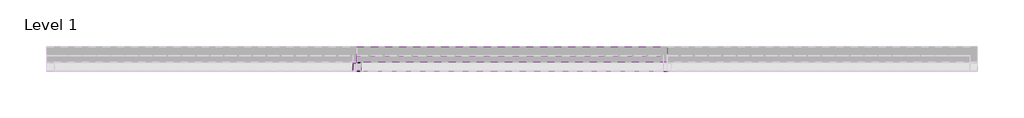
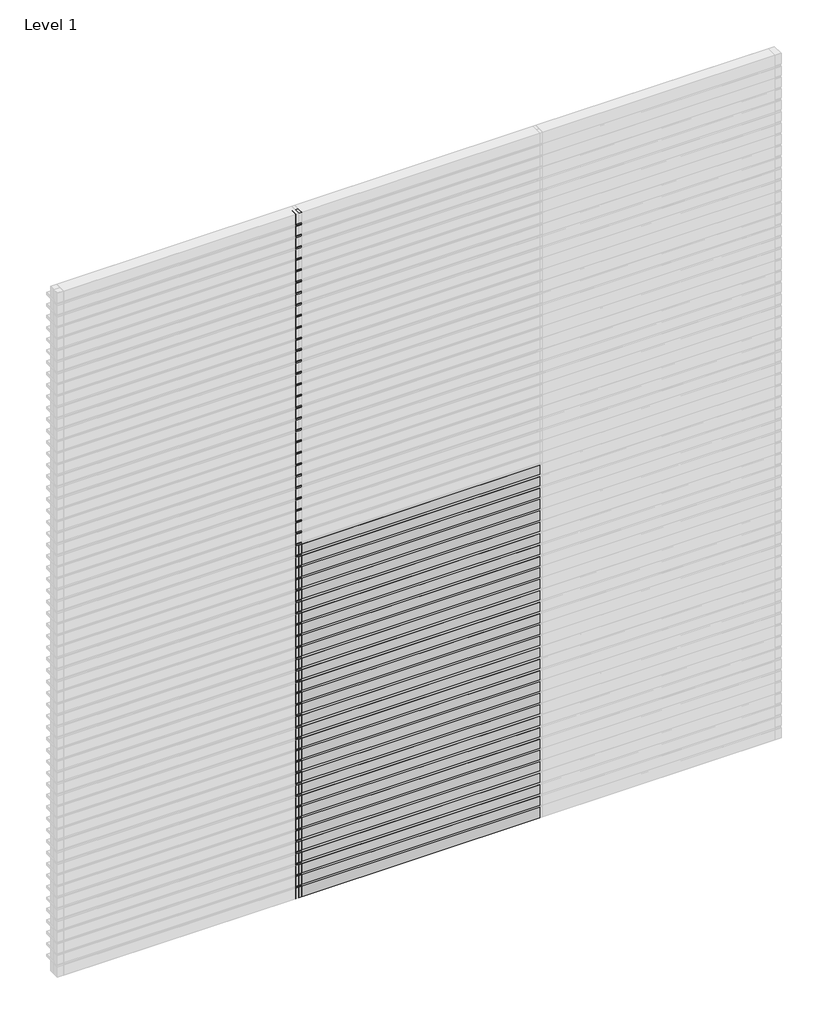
# One storey, part 3 of 6: 99 members, 31 plates.
"""IFC4 building model written with IfcOpenShell, lengths in millimetres."""

from ifc_helpers import new_model, si_unit, origin, place, context, project, spatial, transform, mapped, element, save
from components import rectangular_mullion_30cdfca6, rectangular_mullion_ae434dd9, empty_system_panel_empty_51cbbd14, empty_system_panel_empty_86242385

model = new_model("IFC4")

# Units and contexts
model_context = context("Model", 3, world=origin())
ifc_project = project(units=[si_unit("LENGTHUNIT", "METRE", prefix="MILLI")], contexts=[model_context])

# Site, building, storey
site = spatial("IfcSite", under=ifc_project)
building = spatial("IfcBuilding", under=site)
storey = spatial("IfcBuildingStorey", under=building, Name="Level 1", Elevation=0.0)

# Members
placement = place(None, origin())
rectangular_mullion_shape = rectangular_mullion_30cdfca6(model_context)
element("IfcMember", 1, ObjectType="Rectangular Mullion : RSen_21_CWM_blade - cubic 100 - 0°_gen_duco projects", at=placement, inside=storey, context=model_context, shape_type="MappedRepresentation", body=[
    mapped(rectangular_mullion_shape, transform((2000.0, 3000.0, 2100.0), x_axis=(0.0, 0.0, 1.0), y_axis=(0.0, 1.0, 0.0), z_axis=(-1.0, 0.0, 0.0))),
])
element("IfcMember", 2, ObjectType="Rectangular Mullion : RSen_21_CWM_blade - cubic 100 - 0°_gen_duco projects", at=placement, inside=storey, context=model_context, shape_type="MappedRepresentation", body=[
    mapped(rectangular_mullion_shape, transform((2000.0, 3000.0, 2200.0), x_axis=(0.0, 0.0, 1.0), y_axis=(0.0, 1.0, 0.0), z_axis=(-1.0, 0.0, 0.0))),
])
element("IfcMember", 3, ObjectType="Rectangular Mullion : RSen_21_CWM_blade - cubic 100 - 0°_gen_duco projects", at=placement, inside=storey, context=model_context, shape_type="MappedRepresentation", body=[
    mapped(rectangular_mullion_shape, transform((2000.0, 3000.0, 2300.0), x_axis=(0.0, 0.0, 1.0), y_axis=(0.0, 1.0, 0.0), z_axis=(-1.0, 0.0, 0.0))),
])
element("IfcMember", 4, ObjectType="Rectangular Mullion : RSen_21_CWM_blade - cubic 100 - 0°_gen_duco projects", at=placement, inside=storey, context=model_context, shape_type="MappedRepresentation", body=[
    mapped(rectangular_mullion_shape, transform((2000.0, 3000.0, 2400.0), x_axis=(0.0, 0.0, 1.0), y_axis=(0.0, 1.0, 0.0), z_axis=(-1.0, 0.0, 0.0))),
])
element("IfcMember", 5, ObjectType="Rectangular Mullion : RSen_21_CWM_blade - cubic 100 - 0°_gen_duco projects", at=placement, inside=storey, context=model_context, shape_type="MappedRepresentation", body=[
    mapped(rectangular_mullion_shape, transform((2000.0, 3000.0, 2500.0), x_axis=(0.0, 0.0, 1.0), y_axis=(0.0, 1.0, 0.0), z_axis=(-1.0, 0.0, 0.0))),
])
element("IfcMember", 6, ObjectType="Rectangular Mullion : RSen_21_CWM_blade - cubic 100 - 0°_gen_duco projects", at=placement, inside=storey, context=model_context, shape_type="MappedRepresentation", body=[
    mapped(rectangular_mullion_shape, transform((2000.0, 3000.0, 2600.0), x_axis=(0.0, 0.0, 1.0), y_axis=(0.0, 1.0, 0.0), z_axis=(-1.0, 0.0, 0.0))),
])
element("IfcMember", 7, ObjectType="Rectangular Mullion : RSen_21_CWM_blade - cubic 100 - 0°_gen_duco projects", at=placement, inside=storey, context=model_context, shape_type="MappedRepresentation", body=[
    mapped(rectangular_mullion_shape, transform((2000.0, 3000.0, 2700.0), x_axis=(0.0, 0.0, 1.0), y_axis=(0.0, 1.0, 0.0), z_axis=(-1.0, 0.0, 0.0))),
])
element("IfcMember", 8, ObjectType="Rectangular Mullion : RSen_21_CWM_blade - cubic 100 - 0°_gen_duco projects", at=placement, inside=storey, context=model_context, shape_type="MappedRepresentation", body=[
    mapped(rectangular_mullion_shape, transform((2000.0, 3000.0, 2800.0), x_axis=(0.0, 0.0, 1.0), y_axis=(0.0, 1.0, 0.0), z_axis=(-1.0, 0.0, 0.0))),
])
element("IfcMember", 9, ObjectType="Rectangular Mullion : RSen_21_CWM_blade - cubic 100 - 0°_gen_duco projects", at=placement, inside=storey, context=model_context, shape_type="MappedRepresentation", body=[
    mapped(rectangular_mullion_shape, transform((2000.0, 3000.0, 2900.0), x_axis=(0.0, 0.0, 1.0), y_axis=(0.0, 1.0, 0.0), z_axis=(-1.0, 0.0, 0.0))),
])
element("IfcMember", 10, ObjectType="Rectangular Mullion : RSen_21_CWM_blade - cubic 100 - 0°_gen_duco projects", at=placement, inside=storey, context=model_context, shape_type="MappedRepresentation", body=[
    mapped(rectangular_mullion_shape, transform((2000.0, 3000.0, 3000.0), x_axis=(0.0, 0.0, 1.0), y_axis=(0.0, 1.0, 0.0), z_axis=(-1.0, 0.0, 0.0))),
])
element("IfcMember", 11, ObjectType="Rectangular Mullion : RSen_21_CWM_blade - cubic 100 - 0°_gen_duco projects", at=placement, inside=storey, context=model_context, shape_type="MappedRepresentation", body=[
    mapped(rectangular_mullion_shape, transform((2000.0, 3000.0, 3100.0), x_axis=(0.0, 0.0, 1.0), y_axis=(0.0, 1.0, 0.0), z_axis=(-1.0, 0.0, 0.0))),
])
element("IfcMember", 12, ObjectType="Rectangular Mullion : RSen_21_CWM_blade - cubic 100 - 0°_gen_duco projects", at=placement, inside=storey, context=model_context, shape_type="MappedRepresentation", body=[
    mapped(rectangular_mullion_shape, transform((2000.0, 3000.0, 3200.0), x_axis=(0.0, 0.0, 1.0), y_axis=(0.0, 1.0, 0.0), z_axis=(-1.0, 0.0, 0.0))),
])
element("IfcMember", 13, ObjectType="Rectangular Mullion : RSen_21_CWM_blade - cubic 100 - 0°_gen_duco projects", at=placement, inside=storey, context=model_context, shape_type="MappedRepresentation", body=[
    mapped(rectangular_mullion_shape, transform((2000.0, 3000.0, 3300.0), x_axis=(0.0, 0.0, 1.0), y_axis=(0.0, 1.0, 0.0), z_axis=(-1.0, 0.0, 0.0))),
])
element("IfcMember", 14, ObjectType="Rectangular Mullion : RSen_21_CWM_blade - cubic 100 - 0°_gen_duco projects", at=placement, inside=storey, context=model_context, shape_type="MappedRepresentation", body=[
    mapped(rectangular_mullion_shape, transform((2000.0, 3000.0, 3400.0), x_axis=(0.0, 0.0, 1.0), y_axis=(0.0, 1.0, 0.0), z_axis=(-1.0, 0.0, 0.0))),
])
element("IfcMember", 15, ObjectType="Rectangular Mullion : RSen_21_CWM_blade - cubic 100 - 0°_gen_duco projects", at=placement, inside=storey, context=model_context, shape_type="MappedRepresentation", body=[
    mapped(rectangular_mullion_shape, transform((2000.0, 3000.0, 3500.0), x_axis=(0.0, 0.0, 1.0), y_axis=(0.0, 1.0, 0.0), z_axis=(-1.0, 0.0, 0.0))),
])
element("IfcMember", 16, ObjectType="Rectangular Mullion : RSen_21_CWM_blade - cubic 100 - 0°_gen_duco projects", at=placement, inside=storey, context=model_context, shape_type="MappedRepresentation", body=[
    mapped(rectangular_mullion_shape, transform((2000.0, 3000.0, 3600.0), x_axis=(0.0, 0.0, 1.0), y_axis=(0.0, 1.0, 0.0), z_axis=(-1.0, 0.0, 0.0))),
])
element("IfcMember", 17, ObjectType="Rectangular Mullion : RSen_21_CWM_blade - cubic 100 - 0°_gen_duco projects", at=placement, inside=storey, context=model_context, shape_type="MappedRepresentation", body=[
    mapped(rectangular_mullion_shape, transform((2000.0, 3000.0, 3700.0), x_axis=(0.0, 0.0, 1.0), y_axis=(0.0, 1.0, 0.0), z_axis=(-1.0, 0.0, 0.0))),
])
element("IfcMember", 18, ObjectType="Rectangular Mullion : RSen_21_CWM_blade - cubic 100 - 0°_gen_duco projects", at=placement, inside=storey, context=model_context, shape_type="MappedRepresentation", body=[
    mapped(rectangular_mullion_shape, transform((2000.0, 3000.0, 3800.0), x_axis=(0.0, 0.0, 1.0), y_axis=(0.0, 1.0, 0.0), z_axis=(-1.0, 0.0, 0.0))),
])
element("IfcMember", 19, ObjectType="Rectangular Mullion : RSen_21_CWM_blade - cubic 100 - 0°_gen_duco projects", at=placement, inside=storey, context=model_context, shape_type="MappedRepresentation", body=[
    mapped(rectangular_mullion_shape, transform((2000.0, 3000.0, 3900.0), x_axis=(0.0, 0.0, 1.0), y_axis=(0.0, 1.0, 0.0), z_axis=(-1.0, 0.0, 0.0))),
])
element("IfcMember", 20, ObjectType="Rectangular Mullion : RSen_21_CWM_blade - cubic 100 - 0°_gen_duco projects", at=placement, inside=storey, context=model_context, shape_type="MappedRepresentation", body=[
    mapped(rectangular_mullion_shape, transform((2000.0, 3000.0, 4000.0), x_axis=(0.0, 0.0, 1.0), y_axis=(0.0, 1.0, 0.0), z_axis=(-1.0, 0.0, 0.0))),
])
element("IfcMember", 21, ObjectType="Rectangular Mullion : RSen_21_CWM_blade - cubic 100 - 0°_gen_duco projects", at=placement, inside=storey, context=model_context, shape_type="MappedRepresentation", body=[
    mapped(rectangular_mullion_shape, transform((2000.0, 3000.0, 4100.0), x_axis=(0.0, 0.0, 1.0), y_axis=(0.0, 1.0, 0.0), z_axis=(-1.0, 0.0, 0.0))),
])
element("IfcMember", 22, ObjectType="Rectangular Mullion : RSen_21_CWM_blade - cubic 100 - 0°_gen_duco projects", at=placement, inside=storey, context=model_context, shape_type="MappedRepresentation", body=[
    mapped(rectangular_mullion_shape, transform((2000.0, 3000.0, 4200.0), x_axis=(0.0, 0.0, 1.0), y_axis=(0.0, 1.0, 0.0), z_axis=(-1.0, 0.0, 0.0))),
])
element("IfcMember", 23, ObjectType="Rectangular Mullion : RSen_21_CWM_blade - cubic 100 - 0°_gen_duco projects", at=placement, inside=storey, context=model_context, shape_type="MappedRepresentation", body=[
    mapped(rectangular_mullion_shape, transform((2000.0, 3000.0, 4300.0), x_axis=(0.0, 0.0, 1.0), y_axis=(0.0, 1.0, 0.0), z_axis=(-1.0, 0.0, 0.0))),
])
element("IfcMember", 24, ObjectType="Rectangular Mullion : RSen_21_CWM_blade - cubic 100 - 0°_gen_duco projects", at=placement, inside=storey, context=model_context, shape_type="MappedRepresentation", body=[
    mapped(rectangular_mullion_shape, transform((2000.0, 3000.0, 4400.0), x_axis=(0.0, 0.0, 1.0), y_axis=(0.0, 1.0, 0.0), z_axis=(-1.0, 0.0, 0.0))),
])
element("IfcMember", 25, ObjectType="Rectangular Mullion : RSen_21_CWM_blade - cubic 100 - 0°_gen_duco projects", at=placement, inside=storey, context=model_context, shape_type="MappedRepresentation", body=[
    mapped(rectangular_mullion_shape, transform((2000.0, 3000.0, 4500.0), x_axis=(0.0, 0.0, 1.0), y_axis=(0.0, 1.0, 0.0), z_axis=(-1.0, 0.0, 0.0))),
])
element("IfcMember", 26, ObjectType="Rectangular Mullion : RSen_21_CWM_blade - cubic 100 - 0°_gen_duco projects", at=placement, inside=storey, context=model_context, shape_type="MappedRepresentation", body=[
    mapped(rectangular_mullion_shape, transform((2000.0, 3000.0, 4600.0), x_axis=(0.0, 0.0, 1.0), y_axis=(0.0, 1.0, 0.0), z_axis=(-1.0, 0.0, 0.0))),
])
element("IfcMember", 27, ObjectType="Rectangular Mullion : RSen_21_CWM_blade - cubic 100 - 0°_gen_duco projects", at=placement, inside=storey, context=model_context, shape_type="MappedRepresentation", body=[
    mapped(rectangular_mullion_shape, transform((2000.0, 3000.0, 4700.0), x_axis=(0.0, 0.0, 1.0), y_axis=(0.0, 1.0, 0.0), z_axis=(-1.0, 0.0, 0.0))),
])
element("IfcMember", 28, ObjectType="Rectangular Mullion : RSen_21_CWM_blade - cubic 100 - 0°_gen_duco projects", at=placement, inside=storey, context=model_context, shape_type="MappedRepresentation", body=[
    mapped(rectangular_mullion_shape, transform((2000.0, 3000.0, 4800.0), x_axis=(0.0, 0.0, 1.0), y_axis=(0.0, 1.0, 0.0), z_axis=(-1.0, 0.0, 0.0))),
])
element("IfcMember", 29, ObjectType="Rectangular Mullion : RSen_21_CWM_blade - cubic 100 - 0°_gen_duco projects", at=placement, inside=storey, context=model_context, shape_type="MappedRepresentation", body=[
    mapped(rectangular_mullion_shape, transform((2000.0, 3000.0, 4900.0), x_axis=(0.0, 0.0, 1.0), y_axis=(0.0, 1.0, 0.0), z_axis=(-1.0, 0.0, 0.0))),
])
element("IfcMember", 30, ObjectType="Rectangular Mullion : RSen_21_CWM_blade - cubic 100 - 0°_gen_duco projects", at=placement, inside=storey, context=model_context, shape_type="MappedRepresentation", body=[
    mapped(rectangular_mullion_shape, transform((2000.0, 3000.0, 5000.0), x_axis=(0.0, 0.0, 1.0), y_axis=(0.0, 1.0, 0.0), z_axis=(-1.0, 0.0, 0.0))),
])
element("IfcMember", 31, ObjectType="Rectangular Mullion : RSen_21_CWM_blade - cubic 100 - 0°_gen_duco projects", at=placement, inside=storey, context=model_context, shape_type="MappedRepresentation", body=[
    mapped(rectangular_mullion_shape, transform((2000.0, 3000.0, 5100.0), x_axis=(0.0, 0.0, 1.0), y_axis=(0.0, 1.0, 0.0), z_axis=(-1.0, 0.0, 0.0))),
])
element("IfcMember", 32, ObjectType="Rectangular Mullion : RSen_21_CWM_blade - cubic 100 - 0°_gen_duco projects", at=placement, inside=storey, context=model_context, shape_type="MappedRepresentation", body=[
    mapped(rectangular_mullion_shape, transform((2000.0, 3000.0, 5200.0), x_axis=(0.0, 0.0, 1.0), y_axis=(0.0, 1.0, 0.0), z_axis=(-1.0, 0.0, 0.0))),
])
element("IfcMember", 33, ObjectType="Rectangular Mullion : RSen_21_CWM_blade - cubic 100 - 0°_gen_duco projects", at=placement, inside=storey, context=model_context, shape_type="MappedRepresentation", body=[
    mapped(rectangular_mullion_shape, transform((2000.0, 3000.0, 5300.0), x_axis=(0.0, 0.0, 1.0), y_axis=(0.0, 1.0, 0.0), z_axis=(-1.0, 0.0, 0.0))),
])
element("IfcMember", 34, ObjectType="Rectangular Mullion : RSen_21_CWM_blade - cubic 100 - 0°_gen_duco projects", at=placement, inside=storey, context=model_context, shape_type="MappedRepresentation", body=[
    mapped(rectangular_mullion_shape, transform((2000.0, 3000.0, 5400.0), x_axis=(0.0, 0.0, 1.0), y_axis=(0.0, 1.0, 0.0), z_axis=(-1.0, 0.0, 0.0))),
])
element("IfcMember", 35, ObjectType="Rectangular Mullion : RSen_21_CWM_blade - cubic 100 - 0°_gen_duco projects", at=placement, inside=storey, context=model_context, shape_type="MappedRepresentation", body=[
    mapped(rectangular_mullion_shape, transform((2000.0, 3000.0, 5500.0), x_axis=(0.0, 0.0, 1.0), y_axis=(0.0, 1.0, 0.0), z_axis=(-1.0, 0.0, 0.0))),
])
element("IfcMember", 36, ObjectType="Rectangular Mullion : RSen_21_CWM_blade - cubic 100 - 0°_gen_duco projects", at=placement, inside=storey, context=model_context, shape_type="MappedRepresentation", body=[
    mapped(rectangular_mullion_shape, transform((2000.0, 3000.0, 5600.0), x_axis=(0.0, 0.0, 1.0), y_axis=(0.0, 1.0, 0.0), z_axis=(-1.0, 0.0, 0.0))),
])
element("IfcMember", 37, ObjectType="Rectangular Mullion : RSen_21_CWM_blade - cubic 100 - 0°_gen_duco projects", at=placement, inside=storey, context=model_context, shape_type="MappedRepresentation", body=[
    mapped(rectangular_mullion_shape, transform((2000.0, 3000.0, 5700.0), x_axis=(0.0, 0.0, 1.0), y_axis=(0.0, 1.0, 0.0), z_axis=(-1.0, 0.0, 0.0))),
])
element("IfcMember", 38, ObjectType="Rectangular Mullion : RSen_21_CWM_blade - cubic 100 - 0°_gen_duco projects", at=placement, inside=storey, context=model_context, shape_type="MappedRepresentation", body=[
    mapped(rectangular_mullion_shape, transform((2000.0, 3000.0, 5800.0), x_axis=(0.0, 0.0, 1.0), y_axis=(0.0, 1.0, 0.0), z_axis=(-1.0, 0.0, 0.0))),
])
element("IfcMember", 39, ObjectType="Rectangular Mullion : RSen_21_CWM_blade - cubic 100 - 0°_gen_duco projects", at=placement, inside=storey, context=model_context, shape_type="MappedRepresentation", body=[
    mapped(rectangular_mullion_shape, transform((2000.0, 3000.0, 5900.0), x_axis=(0.0, 0.0, 1.0), y_axis=(0.0, 1.0, 0.0), z_axis=(-1.0, 0.0, 0.0))),
])
rectangular_mullion_2_shape = rectangular_mullion_ae434dd9(model_context)
element("IfcMember", 40, ObjectType="Rectangular Mullion : RSen_21_CWM_support profile 50x50_gen_duco projects", at=placement, inside=storey, context=model_context, shape_type="MappedRepresentation", body=[
    mapped(rectangular_mullion_2_shape, transform((2000.0, 3000.0, 0.0), x_axis=(-1.0, 0.0, 0.0), y_axis=(0.0, 1.0, 0.0), z_axis=(0.0, 0.0, -1.0))),
])
element("IfcMember", 41, ObjectType="Rectangular Mullion : RSen_21_CWM_support profile 50x50_gen_duco projects", at=placement, inside=storey, context=model_context, shape_type="MappedRepresentation", body=[
    mapped(rectangular_mullion_2_shape, transform((2000.0, 3000.0, 100.0), x_axis=(-1.0, 0.0, 0.0), y_axis=(0.0, 1.0, 0.0), z_axis=(0.0, 0.0, -1.0))),
])
element("IfcMember", 42, ObjectType="Rectangular Mullion : RSen_21_CWM_support profile 50x50_gen_duco projects", at=placement, inside=storey, context=model_context, shape_type="MappedRepresentation", body=[
    mapped(rectangular_mullion_2_shape, transform((2000.0, 3000.0, 200.0), x_axis=(-1.0, 0.0, 0.0), y_axis=(0.0, 1.0, 0.0), z_axis=(0.0, 0.0, -1.0))),
])
element("IfcMember", 43, ObjectType="Rectangular Mullion : RSen_21_CWM_support profile 50x50_gen_duco projects", at=placement, inside=storey, context=model_context, shape_type="MappedRepresentation", body=[
    mapped(rectangular_mullion_2_shape, transform((2000.0, 3000.0, 300.0), x_axis=(-1.0, 0.0, 0.0), y_axis=(0.0, 1.0, 0.0), z_axis=(0.0, 0.0, -1.0))),
])
element("IfcMember", 44, ObjectType="Rectangular Mullion : RSen_21_CWM_support profile 50x50_gen_duco projects", at=placement, inside=storey, context=model_context, shape_type="MappedRepresentation", body=[
    mapped(rectangular_mullion_2_shape, transform((2000.0, 3000.0, 400.0), x_axis=(-1.0, 0.0, 0.0), y_axis=(0.0, 1.0, 0.0), z_axis=(0.0, 0.0, -1.0))),
])
element("IfcMember", 45, ObjectType="Rectangular Mullion : RSen_21_CWM_support profile 50x50_gen_duco projects", at=placement, inside=storey, context=model_context, shape_type="MappedRepresentation", body=[
    mapped(rectangular_mullion_2_shape, transform((2000.0, 3000.0, 500.0), x_axis=(-1.0, 0.0, 0.0), y_axis=(0.0, 1.0, 0.0), z_axis=(0.0, 0.0, -1.0))),
])
element("IfcMember", 46, ObjectType="Rectangular Mullion : RSen_21_CWM_support profile 50x50_gen_duco projects", at=placement, inside=storey, context=model_context, shape_type="MappedRepresentation", body=[
    mapped(rectangular_mullion_2_shape, transform((2000.0, 3000.0, 600.0), x_axis=(-1.0, 0.0, 0.0), y_axis=(0.0, 1.0, 0.0), z_axis=(0.0, 0.0, -1.0))),
])
element("IfcMember", 47, ObjectType="Rectangular Mullion : RSen_21_CWM_support profile 50x50_gen_duco projects", at=placement, inside=storey, context=model_context, shape_type="MappedRepresentation", body=[
    mapped(rectangular_mullion_2_shape, transform((2000.0, 3000.0, 700.0), x_axis=(-1.0, 0.0, 0.0), y_axis=(0.0, 1.0, 0.0), z_axis=(0.0, 0.0, -1.0))),
])
element("IfcMember", 48, ObjectType="Rectangular Mullion : RSen_21_CWM_support profile 50x50_gen_duco projects", at=placement, inside=storey, context=model_context, shape_type="MappedRepresentation", body=[
    mapped(rectangular_mullion_2_shape, transform((2000.0, 3000.0, 800.0), x_axis=(-1.0, 0.0, 0.0), y_axis=(0.0, 1.0, 0.0), z_axis=(0.0, 0.0, -1.0))),
])
element("IfcMember", 49, ObjectType="Rectangular Mullion : RSen_21_CWM_support profile 50x50_gen_duco projects", at=placement, inside=storey, context=model_context, shape_type="MappedRepresentation", body=[
    mapped(rectangular_mullion_2_shape, transform((2000.0, 3000.0, 900.0), x_axis=(-1.0, 0.0, 0.0), y_axis=(0.0, 1.0, 0.0), z_axis=(0.0, 0.0, -1.0))),
])
element("IfcMember", 50, ObjectType="Rectangular Mullion : RSen_21_CWM_support profile 50x50_gen_duco projects", at=placement, inside=storey, context=model_context, shape_type="MappedRepresentation", body=[
    mapped(rectangular_mullion_2_shape, transform((2000.0, 3000.0, 1000.0), x_axis=(-1.0, 0.0, 0.0), y_axis=(0.0, 1.0, 0.0), z_axis=(0.0, 0.0, -1.0))),
])
element("IfcMember", 51, ObjectType="Rectangular Mullion : RSen_21_CWM_support profile 50x50_gen_duco projects", at=placement, inside=storey, context=model_context, shape_type="MappedRepresentation", body=[
    mapped(rectangular_mullion_2_shape, transform((2000.0, 3000.0, 1100.0), x_axis=(-1.0, 0.0, 0.0), y_axis=(0.0, 1.0, 0.0), z_axis=(0.0, 0.0, -1.0))),
])
element("IfcMember", 52, ObjectType="Rectangular Mullion : RSen_21_CWM_support profile 50x50_gen_duco projects", at=placement, inside=storey, context=model_context, shape_type="MappedRepresentation", body=[
    mapped(rectangular_mullion_2_shape, transform((2000.0, 3000.0, 1200.0), x_axis=(-1.0, 0.0, 0.0), y_axis=(0.0, 1.0, 0.0), z_axis=(0.0, 0.0, -1.0))),
])
element("IfcMember", 53, ObjectType="Rectangular Mullion : RSen_21_CWM_support profile 50x50_gen_duco projects", at=placement, inside=storey, context=model_context, shape_type="MappedRepresentation", body=[
    mapped(rectangular_mullion_2_shape, transform((2000.0, 3000.0, 1300.0), x_axis=(-1.0, 0.0, 0.0), y_axis=(0.0, 1.0, 0.0), z_axis=(0.0, 0.0, -1.0))),
])
element("IfcMember", 54, ObjectType="Rectangular Mullion : RSen_21_CWM_support profile 50x50_gen_duco projects", at=placement, inside=storey, context=model_context, shape_type="MappedRepresentation", body=[
    mapped(rectangular_mullion_2_shape, transform((2000.0, 3000.0, 1400.0), x_axis=(-1.0, 0.0, 0.0), y_axis=(0.0, 1.0, 0.0), z_axis=(0.0, 0.0, -1.0))),
])
element("IfcMember", 55, ObjectType="Rectangular Mullion : RSen_21_CWM_support profile 50x50_gen_duco projects", at=placement, inside=storey, context=model_context, shape_type="MappedRepresentation", body=[
    mapped(rectangular_mullion_2_shape, transform((2000.0, 3000.0, 1500.0), x_axis=(-1.0, 0.0, 0.0), y_axis=(0.0, 1.0, 0.0), z_axis=(0.0, 0.0, -1.0))),
])
element("IfcMember", 56, ObjectType="Rectangular Mullion : RSen_21_CWM_support profile 50x50_gen_duco projects", at=placement, inside=storey, context=model_context, shape_type="MappedRepresentation", body=[
    mapped(rectangular_mullion_2_shape, transform((2000.0, 3000.0, 1600.0), x_axis=(-1.0, 0.0, 0.0), y_axis=(0.0, 1.0, 0.0), z_axis=(0.0, 0.0, -1.0))),
])
element("IfcMember", 57, ObjectType="Rectangular Mullion : RSen_21_CWM_support profile 50x50_gen_duco projects", at=placement, inside=storey, context=model_context, shape_type="MappedRepresentation", body=[
    mapped(rectangular_mullion_2_shape, transform((2000.0, 3000.0, 1700.0), x_axis=(-1.0, 0.0, 0.0), y_axis=(0.0, 1.0, 0.0), z_axis=(0.0, 0.0, -1.0))),
])
element("IfcMember", 58, ObjectType="Rectangular Mullion : RSen_21_CWM_support profile 50x50_gen_duco projects", at=placement, inside=storey, context=model_context, shape_type="MappedRepresentation", body=[
    mapped(rectangular_mullion_2_shape, transform((2000.0, 3000.0, 1800.0), x_axis=(-1.0, 0.0, 0.0), y_axis=(0.0, 1.0, 0.0), z_axis=(0.0, 0.0, -1.0))),
])
element("IfcMember", 59, ObjectType="Rectangular Mullion : RSen_21_CWM_support profile 50x50_gen_duco projects", at=placement, inside=storey, context=model_context, shape_type="MappedRepresentation", body=[
    mapped(rectangular_mullion_2_shape, transform((2000.0, 3000.0, 1900.0), x_axis=(-1.0, 0.0, 0.0), y_axis=(0.0, 1.0, 0.0), z_axis=(0.0, 0.0, -1.0))),
])
element("IfcMember", 60, ObjectType="Rectangular Mullion : RSen_21_CWM_support profile 50x50_gen_duco projects", at=placement, inside=storey, context=model_context, shape_type="MappedRepresentation", body=[
    mapped(rectangular_mullion_2_shape, transform((2000.0, 3000.0, 2000.0), x_axis=(-1.0, 0.0, 0.0), y_axis=(0.0, 1.0, 0.0), z_axis=(0.0, 0.0, -1.0))),
])
element("IfcMember", 61, ObjectType="Rectangular Mullion : RSen_21_CWM_support profile 50x50_gen_duco projects", at=placement, inside=storey, context=model_context, shape_type="MappedRepresentation", body=[
    mapped(rectangular_mullion_2_shape, transform((2000.0, 3000.0, 2100.0), x_axis=(-1.0, 0.0, 0.0), y_axis=(0.0, 1.0, 0.0), z_axis=(0.0, 0.0, -1.0))),
])
element("IfcMember", 62, ObjectType="Rectangular Mullion : RSen_21_CWM_support profile 50x50_gen_duco projects", at=placement, inside=storey, context=model_context, shape_type="MappedRepresentation", body=[
    mapped(rectangular_mullion_2_shape, transform((2000.0, 3000.0, 2200.0), x_axis=(-1.0, 0.0, 0.0), y_axis=(0.0, 1.0, 0.0), z_axis=(0.0, 0.0, -1.0))),
])
element("IfcMember", 63, ObjectType="Rectangular Mullion : RSen_21_CWM_support profile 50x50_gen_duco projects", at=placement, inside=storey, context=model_context, shape_type="MappedRepresentation", body=[
    mapped(rectangular_mullion_2_shape, transform((2000.0, 3000.0, 2300.0), x_axis=(-1.0, 0.0, 0.0), y_axis=(0.0, 1.0, 0.0), z_axis=(0.0, 0.0, -1.0))),
])
element("IfcMember", 64, ObjectType="Rectangular Mullion : RSen_21_CWM_support profile 50x50_gen_duco projects", at=placement, inside=storey, context=model_context, shape_type="MappedRepresentation", body=[
    mapped(rectangular_mullion_2_shape, transform((2000.0, 3000.0, 2400.0), x_axis=(-1.0, 0.0, 0.0), y_axis=(0.0, 1.0, 0.0), z_axis=(0.0, 0.0, -1.0))),
])
element("IfcMember", 65, ObjectType="Rectangular Mullion : RSen_21_CWM_support profile 50x50_gen_duco projects", at=placement, inside=storey, context=model_context, shape_type="MappedRepresentation", body=[
    mapped(rectangular_mullion_2_shape, transform((2000.0, 3000.0, 2500.0), x_axis=(-1.0, 0.0, 0.0), y_axis=(0.0, 1.0, 0.0), z_axis=(0.0, 0.0, -1.0))),
])
element("IfcMember", 66, ObjectType="Rectangular Mullion : RSen_21_CWM_support profile 50x50_gen_duco projects", at=placement, inside=storey, context=model_context, shape_type="MappedRepresentation", body=[
    mapped(rectangular_mullion_2_shape, transform((2000.0, 3000.0, 2600.0), x_axis=(-1.0, 0.0, 0.0), y_axis=(0.0, 1.0, 0.0), z_axis=(0.0, 0.0, -1.0))),
])
element("IfcMember", 67, ObjectType="Rectangular Mullion : RSen_21_CWM_support profile 50x50_gen_duco projects", at=placement, inside=storey, context=model_context, shape_type="MappedRepresentation", body=[
    mapped(rectangular_mullion_2_shape, transform((2000.0, 3000.0, 2700.0), x_axis=(-1.0, 0.0, 0.0), y_axis=(0.0, 1.0, 0.0), z_axis=(0.0, 0.0, -1.0))),
])
element("IfcMember", 68, ObjectType="Rectangular Mullion : RSen_21_CWM_support profile 50x50_gen_duco projects", at=placement, inside=storey, context=model_context, shape_type="MappedRepresentation", body=[
    mapped(rectangular_mullion_2_shape, transform((2000.0, 3000.0, 2800.0), x_axis=(-1.0, 0.0, 0.0), y_axis=(0.0, 1.0, 0.0), z_axis=(0.0, 0.0, -1.0))),
])
element("IfcMember", 69, ObjectType="Rectangular Mullion : RSen_21_CWM_support profile 50x50_gen_duco projects", at=placement, inside=storey, context=model_context, shape_type="MappedRepresentation", body=[
    mapped(rectangular_mullion_2_shape, transform((2000.0, 3000.0, 2900.0), x_axis=(-1.0, 0.0, 0.0), y_axis=(0.0, 1.0, 0.0), z_axis=(0.0, 0.0, -1.0))),
])
element("IfcMember", 70, ObjectType="Rectangular Mullion : RSen_21_CWM_support profile 50x50_gen_duco projects", at=placement, inside=storey, context=model_context, shape_type="MappedRepresentation", body=[
    mapped(rectangular_mullion_2_shape, transform((2000.0, 3000.0, 3000.0), x_axis=(-1.0, 0.0, 0.0), y_axis=(0.0, 1.0, 0.0), z_axis=(0.0, 0.0, -1.0))),
])
element("IfcMember", 71, ObjectType="Rectangular Mullion : RSen_21_CWM_support profile 50x50_gen_duco projects", at=placement, inside=storey, context=model_context, shape_type="MappedRepresentation", body=[
    mapped(rectangular_mullion_2_shape, transform((2000.0, 3000.0, 3100.0), x_axis=(-1.0, 0.0, 0.0), y_axis=(0.0, 1.0, 0.0), z_axis=(0.0, 0.0, -1.0))),
])
element("IfcMember", 72, ObjectType="Rectangular Mullion : RSen_21_CWM_support profile 50x50_gen_duco projects", at=placement, inside=storey, context=model_context, shape_type="MappedRepresentation", body=[
    mapped(rectangular_mullion_2_shape, transform((2000.0, 3000.0, 3200.0), x_axis=(-1.0, 0.0, 0.0), y_axis=(0.0, 1.0, 0.0), z_axis=(0.0, 0.0, -1.0))),
])
element("IfcMember", 73, ObjectType="Rectangular Mullion : RSen_21_CWM_support profile 50x50_gen_duco projects", at=placement, inside=storey, context=model_context, shape_type="MappedRepresentation", body=[
    mapped(rectangular_mullion_2_shape, transform((2000.0, 3000.0, 3300.0), x_axis=(-1.0, 0.0, 0.0), y_axis=(0.0, 1.0, 0.0), z_axis=(0.0, 0.0, -1.0))),
])
element("IfcMember", 74, ObjectType="Rectangular Mullion : RSen_21_CWM_support profile 50x50_gen_duco projects", at=placement, inside=storey, context=model_context, shape_type="MappedRepresentation", body=[
    mapped(rectangular_mullion_2_shape, transform((2000.0, 3000.0, 3400.0), x_axis=(-1.0, 0.0, 0.0), y_axis=(0.0, 1.0, 0.0), z_axis=(0.0, 0.0, -1.0))),
])
element("IfcMember", 75, ObjectType="Rectangular Mullion : RSen_21_CWM_support profile 50x50_gen_duco projects", at=placement, inside=storey, context=model_context, shape_type="MappedRepresentation", body=[
    mapped(rectangular_mullion_2_shape, transform((2000.0, 3000.0, 3500.0), x_axis=(-1.0, 0.0, 0.0), y_axis=(0.0, 1.0, 0.0), z_axis=(0.0, 0.0, -1.0))),
])
element("IfcMember", 76, ObjectType="Rectangular Mullion : RSen_21_CWM_support profile 50x50_gen_duco projects", at=placement, inside=storey, context=model_context, shape_type="MappedRepresentation", body=[
    mapped(rectangular_mullion_2_shape, transform((2000.0, 3000.0, 3600.0), x_axis=(-1.0, 0.0, 0.0), y_axis=(0.0, 1.0, 0.0), z_axis=(0.0, 0.0, -1.0))),
])
element("IfcMember", 77, ObjectType="Rectangular Mullion : RSen_21_CWM_support profile 50x50_gen_duco projects", at=placement, inside=storey, context=model_context, shape_type="MappedRepresentation", body=[
    mapped(rectangular_mullion_2_shape, transform((2000.0, 3000.0, 3700.0), x_axis=(-1.0, 0.0, 0.0), y_axis=(0.0, 1.0, 0.0), z_axis=(0.0, 0.0, -1.0))),
])
element("IfcMember", 78, ObjectType="Rectangular Mullion : RSen_21_CWM_support profile 50x50_gen_duco projects", at=placement, inside=storey, context=model_context, shape_type="MappedRepresentation", body=[
    mapped(rectangular_mullion_2_shape, transform((2000.0, 3000.0, 3800.0), x_axis=(-1.0, 0.0, 0.0), y_axis=(0.0, 1.0, 0.0), z_axis=(0.0, 0.0, -1.0))),
])
element("IfcMember", 79, ObjectType="Rectangular Mullion : RSen_21_CWM_support profile 50x50_gen_duco projects", at=placement, inside=storey, context=model_context, shape_type="MappedRepresentation", body=[
    mapped(rectangular_mullion_2_shape, transform((2000.0, 3000.0, 3900.0), x_axis=(-1.0, 0.0, 0.0), y_axis=(0.0, 1.0, 0.0), z_axis=(0.0, 0.0, -1.0))),
])
element("IfcMember", 80, ObjectType="Rectangular Mullion : RSen_21_CWM_support profile 50x50_gen_duco projects", at=placement, inside=storey, context=model_context, shape_type="MappedRepresentation", body=[
    mapped(rectangular_mullion_2_shape, transform((2000.0, 3000.0, 4000.0), x_axis=(-1.0, 0.0, 0.0), y_axis=(0.0, 1.0, 0.0), z_axis=(0.0, 0.0, -1.0))),
])
element("IfcMember", 81, ObjectType="Rectangular Mullion : RSen_21_CWM_support profile 50x50_gen_duco projects", at=placement, inside=storey, context=model_context, shape_type="MappedRepresentation", body=[
    mapped(rectangular_mullion_2_shape, transform((2000.0, 3000.0, 4100.0), x_axis=(-1.0, 0.0, 0.0), y_axis=(0.0, 1.0, 0.0), z_axis=(0.0, 0.0, -1.0))),
])
element("IfcMember", 82, ObjectType="Rectangular Mullion : RSen_21_CWM_support profile 50x50_gen_duco projects", at=placement, inside=storey, context=model_context, shape_type="MappedRepresentation", body=[
    mapped(rectangular_mullion_2_shape, transform((2000.0, 3000.0, 4200.0), x_axis=(-1.0, 0.0, 0.0), y_axis=(0.0, 1.0, 0.0), z_axis=(0.0, 0.0, -1.0))),
])
element("IfcMember", 83, ObjectType="Rectangular Mullion : RSen_21_CWM_support profile 50x50_gen_duco projects", at=placement, inside=storey, context=model_context, shape_type="MappedRepresentation", body=[
    mapped(rectangular_mullion_2_shape, transform((2000.0, 3000.0, 4300.0), x_axis=(-1.0, 0.0, 0.0), y_axis=(0.0, 1.0, 0.0), z_axis=(0.0, 0.0, -1.0))),
])
element("IfcMember", 84, ObjectType="Rectangular Mullion : RSen_21_CWM_support profile 50x50_gen_duco projects", at=placement, inside=storey, context=model_context, shape_type="MappedRepresentation", body=[
    mapped(rectangular_mullion_2_shape, transform((2000.0, 3000.0, 4400.0), x_axis=(-1.0, 0.0, 0.0), y_axis=(0.0, 1.0, 0.0), z_axis=(0.0, 0.0, -1.0))),
])
element("IfcMember", 85, ObjectType="Rectangular Mullion : RSen_21_CWM_support profile 50x50_gen_duco projects", at=placement, inside=storey, context=model_context, shape_type="MappedRepresentation", body=[
    mapped(rectangular_mullion_2_shape, transform((2000.0, 3000.0, 4500.0), x_axis=(-1.0, 0.0, 0.0), y_axis=(0.0, 1.0, 0.0), z_axis=(0.0, 0.0, -1.0))),
])
element("IfcMember", 86, ObjectType="Rectangular Mullion : RSen_21_CWM_support profile 50x50_gen_duco projects", at=placement, inside=storey, context=model_context, shape_type="MappedRepresentation", body=[
    mapped(rectangular_mullion_2_shape, transform((2000.0, 3000.0, 4600.0), x_axis=(-1.0, 0.0, 0.0), y_axis=(0.0, 1.0, 0.0), z_axis=(0.0, 0.0, -1.0))),
])
element("IfcMember", 87, ObjectType="Rectangular Mullion : RSen_21_CWM_support profile 50x50_gen_duco projects", at=placement, inside=storey, context=model_context, shape_type="MappedRepresentation", body=[
    mapped(rectangular_mullion_2_shape, transform((2000.0, 3000.0, 4700.0), x_axis=(-1.0, 0.0, 0.0), y_axis=(0.0, 1.0, 0.0), z_axis=(0.0, 0.0, -1.0))),
])
element("IfcMember", 88, ObjectType="Rectangular Mullion : RSen_21_CWM_support profile 50x50_gen_duco projects", at=placement, inside=storey, context=model_context, shape_type="MappedRepresentation", body=[
    mapped(rectangular_mullion_2_shape, transform((2000.0, 3000.0, 4800.0), x_axis=(-1.0, 0.0, 0.0), y_axis=(0.0, 1.0, 0.0), z_axis=(0.0, 0.0, -1.0))),
])
element("IfcMember", 89, ObjectType="Rectangular Mullion : RSen_21_CWM_support profile 50x50_gen_duco projects", at=placement, inside=storey, context=model_context, shape_type="MappedRepresentation", body=[
    mapped(rectangular_mullion_2_shape, transform((2000.0, 3000.0, 4900.0), x_axis=(-1.0, 0.0, 0.0), y_axis=(0.0, 1.0, 0.0), z_axis=(0.0, 0.0, -1.0))),
])
element("IfcMember", 90, ObjectType="Rectangular Mullion : RSen_21_CWM_support profile 50x50_gen_duco projects", at=placement, inside=storey, context=model_context, shape_type="MappedRepresentation", body=[
    mapped(rectangular_mullion_2_shape, transform((2000.0, 3000.0, 5000.0), x_axis=(-1.0, 0.0, 0.0), y_axis=(0.0, 1.0, 0.0), z_axis=(0.0, 0.0, -1.0))),
])
element("IfcMember", 91, ObjectType="Rectangular Mullion : RSen_21_CWM_support profile 50x50_gen_duco projects", at=placement, inside=storey, context=model_context, shape_type="MappedRepresentation", body=[
    mapped(rectangular_mullion_2_shape, transform((2000.0, 3000.0, 5100.0), x_axis=(-1.0, 0.0, 0.0), y_axis=(0.0, 1.0, 0.0), z_axis=(0.0, 0.0, -1.0))),
])
element("IfcMember", 92, ObjectType="Rectangular Mullion : RSen_21_CWM_support profile 50x50_gen_duco projects", at=placement, inside=storey, context=model_context, shape_type="MappedRepresentation", body=[
    mapped(rectangular_mullion_2_shape, transform((2000.0, 3000.0, 5200.0), x_axis=(-1.0, 0.0, 0.0), y_axis=(0.0, 1.0, 0.0), z_axis=(0.0, 0.0, -1.0))),
])
element("IfcMember", 93, ObjectType="Rectangular Mullion : RSen_21_CWM_support profile 50x50_gen_duco projects", at=placement, inside=storey, context=model_context, shape_type="MappedRepresentation", body=[
    mapped(rectangular_mullion_2_shape, transform((2000.0, 3000.0, 5300.0), x_axis=(-1.0, 0.0, 0.0), y_axis=(0.0, 1.0, 0.0), z_axis=(0.0, 0.0, -1.0))),
])
element("IfcMember", 94, ObjectType="Rectangular Mullion : RSen_21_CWM_support profile 50x50_gen_duco projects", at=placement, inside=storey, context=model_context, shape_type="MappedRepresentation", body=[
    mapped(rectangular_mullion_2_shape, transform((2000.0, 3000.0, 5400.0), x_axis=(-1.0, 0.0, 0.0), y_axis=(0.0, 1.0, 0.0), z_axis=(0.0, 0.0, -1.0))),
])
element("IfcMember", 95, ObjectType="Rectangular Mullion : RSen_21_CWM_support profile 50x50_gen_duco projects", at=placement, inside=storey, context=model_context, shape_type="MappedRepresentation", body=[
    mapped(rectangular_mullion_2_shape, transform((2000.0, 3000.0, 5500.0), x_axis=(-1.0, 0.0, 0.0), y_axis=(0.0, 1.0, 0.0), z_axis=(0.0, 0.0, -1.0))),
])
element("IfcMember", 96, ObjectType="Rectangular Mullion : RSen_21_CWM_support profile 50x50_gen_duco projects", at=placement, inside=storey, context=model_context, shape_type="MappedRepresentation", body=[
    mapped(rectangular_mullion_2_shape, transform((2000.0, 3000.0, 5600.0), x_axis=(-1.0, 0.0, 0.0), y_axis=(0.0, 1.0, 0.0), z_axis=(0.0, 0.0, -1.0))),
])
element("IfcMember", 97, ObjectType="Rectangular Mullion : RSen_21_CWM_support profile 50x50_gen_duco projects", at=placement, inside=storey, context=model_context, shape_type="MappedRepresentation", body=[
    mapped(rectangular_mullion_2_shape, transform((2000.0, 3000.0, 5700.0), x_axis=(-1.0, 0.0, 0.0), y_axis=(0.0, 1.0, 0.0), z_axis=(0.0, 0.0, -1.0))),
])
element("IfcMember", 98, ObjectType="Rectangular Mullion : RSen_21_CWM_support profile 50x50_gen_duco projects", at=placement, inside=storey, context=model_context, shape_type="MappedRepresentation", body=[
    mapped(rectangular_mullion_2_shape, transform((2000.0, 3000.0, 5800.0), x_axis=(-1.0, 0.0, 0.0), y_axis=(0.0, 1.0, 0.0), z_axis=(0.0, 0.0, -1.0))),
])
element("IfcMember", 99, ObjectType="Rectangular Mullion : RSen_21_CWM_support profile 50x50_gen_duco projects", at=placement, inside=storey, context=model_context, shape_type="MappedRepresentation", body=[
    mapped(rectangular_mullion_2_shape, transform((2000.0, 3000.0, 5900.0), x_axis=(-1.0, 0.0, 0.0), y_axis=(0.0, 1.0, 0.0), z_axis=(0.0, 0.0, -1.0))),
])

# Plates
empty_system_panel_empty_shape = empty_system_panel_empty_51cbbd14(model_context)
element("IfcPlate", 100, ObjectType="Empty System Panel : Empty", at=placement, inside=storey, context=model_context, shape_type="MappedRepresentation", body=[
    mapped(empty_system_panel_empty_shape, transform((3000.0, 3000.0, 0.0), x_axis=(-1.0, 0.0, 0.0), y_axis=(0.0, -1.0, 0.0), z_axis=(0.0, 0.0, 1.0))),
])
empty_system_panel_empty_2_shape = empty_system_panel_empty_86242385(model_context)
element("IfcPlate", 101, ObjectType="Empty System Panel : Empty", at=placement, inside=storey, context=model_context, shape_type="MappedRepresentation", body=[
    mapped(empty_system_panel_empty_2_shape, transform((3000.0, 3000.0, 110.0), x_axis=(-1.0, 0.0, 0.0), y_axis=(0.0, -1.0, 0.0), z_axis=(0.0, 0.0, 1.0))),
])
element("IfcPlate", 102, ObjectType="Empty System Panel : Empty", at=placement, inside=storey, context=model_context, shape_type="MappedRepresentation", body=[
    mapped(empty_system_panel_empty_2_shape, transform((3000.0, 3000.0, 210.0), x_axis=(-1.0, 0.0, 0.0), y_axis=(0.0, -1.0, 0.0), z_axis=(0.0, 0.0, 1.0))),
])
element("IfcPlate", 103, ObjectType="Empty System Panel : Empty", at=placement, inside=storey, context=model_context, shape_type="MappedRepresentation", body=[
    mapped(empty_system_panel_empty_2_shape, transform((3000.0, 3000.0, 310.0), x_axis=(-1.0, 0.0, 0.0), y_axis=(0.0, -1.0, 0.0), z_axis=(0.0, 0.0, 1.0))),
])
element("IfcPlate", 104, ObjectType="Empty System Panel : Empty", at=placement, inside=storey, context=model_context, shape_type="MappedRepresentation", body=[
    mapped(empty_system_panel_empty_2_shape, transform((3000.0, 3000.0, 410.0), x_axis=(-1.0, 0.0, 0.0), y_axis=(0.0, -1.0, 0.0), z_axis=(0.0, 0.0, 1.0))),
])
element("IfcPlate", 105, ObjectType="Empty System Panel : Empty", at=placement, inside=storey, context=model_context, shape_type="MappedRepresentation", body=[
    mapped(empty_system_panel_empty_2_shape, transform((3000.0, 3000.0, 510.0), x_axis=(-1.0, 0.0, 0.0), y_axis=(0.0, -1.0, 0.0), z_axis=(0.0, 0.0, 1.0))),
])
element("IfcPlate", 106, ObjectType="Empty System Panel : Empty", at=placement, inside=storey, context=model_context, shape_type="MappedRepresentation", body=[
    mapped(empty_system_panel_empty_2_shape, transform((3000.0, 3000.0, 610.0), x_axis=(-1.0, 0.0, 0.0), y_axis=(0.0, -1.0, 0.0), z_axis=(0.0, 0.0, 1.0))),
])
element("IfcPlate", 107, ObjectType="Empty System Panel : Empty", at=placement, inside=storey, context=model_context, shape_type="MappedRepresentation", body=[
    mapped(empty_system_panel_empty_2_shape, transform((3000.0, 3000.0, 710.0), x_axis=(-1.0, 0.0, 0.0), y_axis=(0.0, -1.0, 0.0), z_axis=(0.0, 0.0, 1.0))),
])
element("IfcPlate", 108, ObjectType="Empty System Panel : Empty", at=placement, inside=storey, context=model_context, shape_type="MappedRepresentation", body=[
    mapped(empty_system_panel_empty_2_shape, transform((3000.0, 3000.0, 810.0), x_axis=(-1.0, 0.0, 0.0), y_axis=(0.0, -1.0, 0.0), z_axis=(0.0, 0.0, 1.0))),
])
element("IfcPlate", 109, ObjectType="Empty System Panel : Empty", at=placement, inside=storey, context=model_context, shape_type="MappedRepresentation", body=[
    mapped(empty_system_panel_empty_2_shape, transform((3000.0, 3000.0, 910.0), x_axis=(-1.0, 0.0, 0.0), y_axis=(0.0, -1.0, 0.0), z_axis=(0.0, 0.0, 1.0))),
])
element("IfcPlate", 110, ObjectType="Empty System Panel : Empty", at=placement, inside=storey, context=model_context, shape_type="MappedRepresentation", body=[
    mapped(empty_system_panel_empty_2_shape, transform((3000.0, 3000.0, 1010.0), x_axis=(-1.0, 0.0, 0.0), y_axis=(0.0, -1.0, 0.0), z_axis=(0.0, 0.0, 1.0))),
])
element("IfcPlate", 111, ObjectType="Empty System Panel : Empty", at=placement, inside=storey, context=model_context, shape_type="MappedRepresentation", body=[
    mapped(empty_system_panel_empty_2_shape, transform((3000.0, 3000.0, 1110.0), x_axis=(-1.0, 0.0, 0.0), y_axis=(0.0, -1.0, 0.0), z_axis=(0.0, 0.0, 1.0))),
])
element("IfcPlate", 112, ObjectType="Empty System Panel : Empty", at=placement, inside=storey, context=model_context, shape_type="MappedRepresentation", body=[
    mapped(empty_system_panel_empty_2_shape, transform((3000.0, 3000.0, 1210.0), x_axis=(-1.0, 0.0, 0.0), y_axis=(0.0, -1.0, 0.0), z_axis=(0.0, 0.0, 1.0))),
])
element("IfcPlate", 113, ObjectType="Empty System Panel : Empty", at=placement, inside=storey, context=model_context, shape_type="MappedRepresentation", body=[
    mapped(empty_system_panel_empty_2_shape, transform((3000.0, 3000.0, 1310.0), x_axis=(-1.0, 0.0, 0.0), y_axis=(0.0, -1.0, 0.0), z_axis=(0.0, 0.0, 1.0))),
])
element("IfcPlate", 114, ObjectType="Empty System Panel : Empty", at=placement, inside=storey, context=model_context, shape_type="MappedRepresentation", body=[
    mapped(empty_system_panel_empty_2_shape, transform((3000.0, 3000.0, 1410.0), x_axis=(-1.0, 0.0, 0.0), y_axis=(0.0, -1.0, 0.0), z_axis=(0.0, 0.0, 1.0))),
])
element("IfcPlate", 115, ObjectType="Empty System Panel : Empty", at=placement, inside=storey, context=model_context, shape_type="MappedRepresentation", body=[
    mapped(empty_system_panel_empty_2_shape, transform((3000.0, 3000.0, 1510.0), x_axis=(-1.0, 0.0, 0.0), y_axis=(0.0, -1.0, 0.0), z_axis=(0.0, 0.0, 1.0))),
])
element("IfcPlate", 116, ObjectType="Empty System Panel : Empty", at=placement, inside=storey, context=model_context, shape_type="MappedRepresentation", body=[
    mapped(empty_system_panel_empty_2_shape, transform((3000.0, 3000.0, 1610.0), x_axis=(-1.0, 0.0, 0.0), y_axis=(0.0, -1.0, 0.0), z_axis=(0.0, 0.0, 1.0))),
])
element("IfcPlate", 117, ObjectType="Empty System Panel : Empty", at=placement, inside=storey, context=model_context, shape_type="MappedRepresentation", body=[
    mapped(empty_system_panel_empty_2_shape, transform((3000.0, 3000.0, 1710.0), x_axis=(-1.0, 0.0, 0.0), y_axis=(0.0, -1.0, 0.0), z_axis=(0.0, 0.0, 1.0))),
])
element("IfcPlate", 118, ObjectType="Empty System Panel : Empty", at=placement, inside=storey, context=model_context, shape_type="MappedRepresentation", body=[
    mapped(empty_system_panel_empty_2_shape, transform((3000.0, 3000.0, 1810.0), x_axis=(-1.0, 0.0, 0.0), y_axis=(0.0, -1.0, 0.0), z_axis=(0.0, 0.0, 1.0))),
])
element("IfcPlate", 119, ObjectType="Empty System Panel : Empty", at=placement, inside=storey, context=model_context, shape_type="MappedRepresentation", body=[
    mapped(empty_system_panel_empty_2_shape, transform((3000.0, 3000.0, 1910.0), x_axis=(-1.0, 0.0, 0.0), y_axis=(0.0, -1.0, 0.0), z_axis=(0.0, 0.0, 1.0))),
])
element("IfcPlate", 120, ObjectType="Empty System Panel : Empty", at=placement, inside=storey, context=model_context, shape_type="MappedRepresentation", body=[
    mapped(empty_system_panel_empty_2_shape, transform((3000.0, 3000.0, 2010.0), x_axis=(-1.0, 0.0, 0.0), y_axis=(0.0, -1.0, 0.0), z_axis=(0.0, 0.0, 1.0))),
])
element("IfcPlate", 121, ObjectType="Empty System Panel : Empty", at=placement, inside=storey, context=model_context, shape_type="MappedRepresentation", body=[
    mapped(empty_system_panel_empty_2_shape, transform((3000.0, 3000.0, 2110.0), x_axis=(-1.0, 0.0, 0.0), y_axis=(0.0, -1.0, 0.0), z_axis=(0.0, 0.0, 1.0))),
])
element("IfcPlate", 122, ObjectType="Empty System Panel : Empty", at=placement, inside=storey, context=model_context, shape_type="MappedRepresentation", body=[
    mapped(empty_system_panel_empty_2_shape, transform((3000.0, 3000.0, 2210.0), x_axis=(-1.0, 0.0, 0.0), y_axis=(0.0, -1.0, 0.0), z_axis=(0.0, 0.0, 1.0))),
])
element("IfcPlate", 123, ObjectType="Empty System Panel : Empty", at=placement, inside=storey, context=model_context, shape_type="MappedRepresentation", body=[
    mapped(empty_system_panel_empty_2_shape, transform((3000.0, 3000.0, 2310.0), x_axis=(-1.0, 0.0, 0.0), y_axis=(0.0, -1.0, 0.0), z_axis=(0.0, 0.0, 1.0))),
])
element("IfcPlate", 124, ObjectType="Empty System Panel : Empty", at=placement, inside=storey, context=model_context, shape_type="MappedRepresentation", body=[
    mapped(empty_system_panel_empty_2_shape, transform((3000.0, 3000.0, 2410.0), x_axis=(-1.0, 0.0, 0.0), y_axis=(0.0, -1.0, 0.0), z_axis=(0.0, 0.0, 1.0))),
])
element("IfcPlate", 125, ObjectType="Empty System Panel : Empty", at=placement, inside=storey, context=model_context, shape_type="MappedRepresentation", body=[
    mapped(empty_system_panel_empty_2_shape, transform((3000.0, 3000.0, 2510.0), x_axis=(-1.0, 0.0, 0.0), y_axis=(0.0, -1.0, 0.0), z_axis=(0.0, 0.0, 1.0))),
])
element("IfcPlate", 126, ObjectType="Empty System Panel : Empty", at=placement, inside=storey, context=model_context, shape_type="MappedRepresentation", body=[
    mapped(empty_system_panel_empty_2_shape, transform((3000.0, 3000.0, 2610.0), x_axis=(-1.0, 0.0, 0.0), y_axis=(0.0, -1.0, 0.0), z_axis=(0.0, 0.0, 1.0))),
])
element("IfcPlate", 127, ObjectType="Empty System Panel : Empty", at=placement, inside=storey, context=model_context, shape_type="MappedRepresentation", body=[
    mapped(empty_system_panel_empty_2_shape, transform((3000.0, 3000.0, 2710.0), x_axis=(-1.0, 0.0, 0.0), y_axis=(0.0, -1.0, 0.0), z_axis=(0.0, 0.0, 1.0))),
])
element("IfcPlate", 128, ObjectType="Empty System Panel : Empty", at=placement, inside=storey, context=model_context, shape_type="MappedRepresentation", body=[
    mapped(empty_system_panel_empty_2_shape, transform((3000.0, 3000.0, 2810.0), x_axis=(-1.0, 0.0, 0.0), y_axis=(0.0, -1.0, 0.0), z_axis=(0.0, 0.0, 1.0))),
])
element("IfcPlate", 129, ObjectType="Empty System Panel : Empty", at=placement, inside=storey, context=model_context, shape_type="MappedRepresentation", body=[
    mapped(empty_system_panel_empty_2_shape, transform((3000.0, 3000.0, 2910.0), x_axis=(-1.0, 0.0, 0.0), y_axis=(0.0, -1.0, 0.0), z_axis=(0.0, 0.0, 1.0))),
])
element("IfcPlate", 130, ObjectType="Empty System Panel : Empty", at=placement, inside=storey, context=model_context, shape_type="MappedRepresentation", body=[
    mapped(empty_system_panel_empty_2_shape, transform((3000.0, 3000.0, 3010.0), x_axis=(-1.0, 0.0, 0.0), y_axis=(0.0, -1.0, 0.0), z_axis=(0.0, 0.0, 1.0))),
])

save(model, "model.ifc")
